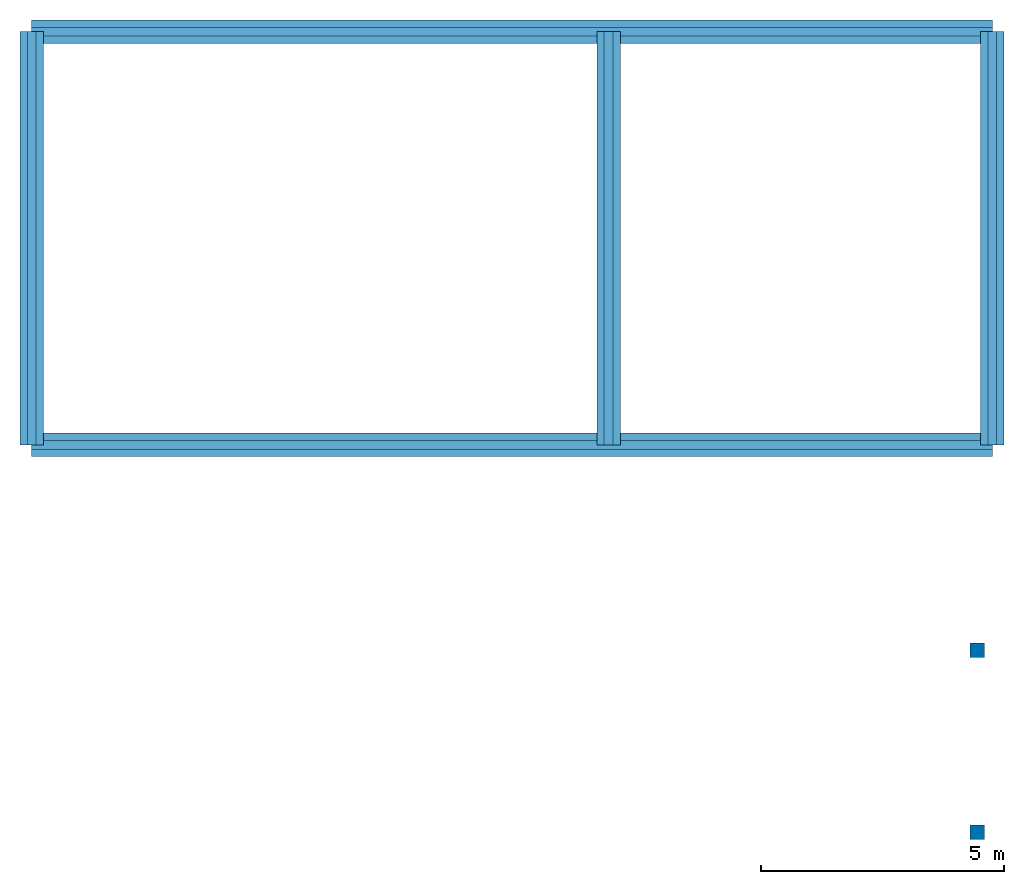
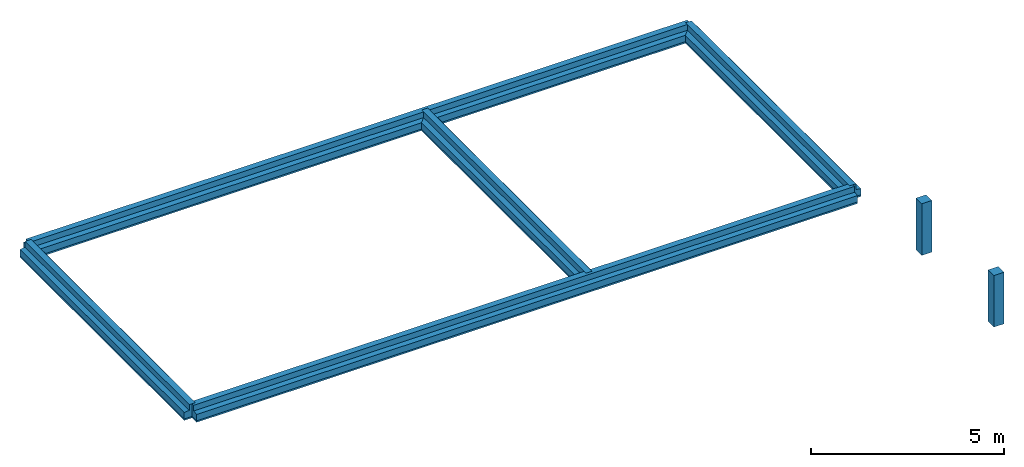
# One storey: 10 building element parts, 2 columns, 5 elements without a shape of their own.
"""IFC2X3 building model written with IfcOpenShell, lengths in metres."""

from ifc_helpers import new_model, entity, si_unit, converted_unit, derived_unit, money_unit, direction, frame, origin_with_axes, origin_2d_with_axis, place, context, subcontext, project, spatial, polyline, rectangle, outline, extrude, material, type_object, element, aggregate, save


model = new_model("IFC2X3")

# Units and contexts
model_context = context("Model", 3, precision=1e-05, world=origin_with_axes(), true_north=direction((0.0, 1.0)))
body_context = subcontext(model_context, "Body", "Model", "MODEL_VIEW")
ifc_project = project(units=[si_unit("LENGTHUNIT", "METRE"), si_unit("AREAUNIT", "SQUARE_METRE"), si_unit("VOLUMEUNIT", "CUBIC_METRE"), converted_unit("PLANEANGLEUNIT", "DEGREE", entity("IfcPlaneAngleMeasure", 0.0174532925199), si_unit("PLANEANGLEUNIT", "RADIAN"), dimensions=[0, 0, 0, 0, 0, 0, 0]), si_unit("SOLIDANGLEUNIT", "STERADIAN"), money_unit("CHF"), converted_unit("TIMEUNIT", "Year", entity("IfcTimeMeasure", 31556926.0), si_unit("TIMEUNIT", "SECOND"), dimensions=[0, 0, 1, 0, 0, 0, 0]), si_unit("MASSUNIT", "GRAM", prefix="KILO"), si_unit("THERMODYNAMICTEMPERATUREUNIT", "DEGREE_CELSIUS"), si_unit("LUMINOUSINTENSITYUNIT", "LUMEN"), si_unit("ENERGYUNIT", "JOULE", prefix="MEGA"), derived_unit("THERMALCONDUCTANCEUNIT", [(si_unit("POWERUNIT", "WATT"), 1), (si_unit("LENGTHUNIT", "METRE"), -1), (si_unit("THERMODYNAMICTEMPERATUREUNIT", "KELVIN"), -1)]), derived_unit("SPECIFICHEATCAPACITYUNIT", [(si_unit("ENERGYUNIT", "JOULE"), 1), (si_unit("MASSUNIT", "GRAM", prefix="KILO"), -1), (si_unit("THERMODYNAMICTEMPERATUREUNIT", "KELVIN"), -1)]), derived_unit("MASSDENSITYUNIT", [(si_unit("MASSUNIT", "GRAM", prefix="KILO"), 1), (si_unit("VOLUMEUNIT", "CUBIC_METRE"), -1)])], contexts=[model_context])

# Site, building, storey
site_placement = place(None, origin_with_axes())
site = spatial("IfcSite", under=ifc_project, at=site_placement, Name="Site", CompositionType="ELEMENT")
building_placement = place(site_placement, origin_with_axes())
building = spatial("IfcBuilding", under=site, at=building_placement, Name="Bâtiment", CompositionType="ELEMENT")
storey_placement = place(building_placement, frame((0.0, 0.0, -2.8), z_axis=(0.0, 0.0, 1.0), x_axis=(1.0, 0.0, 0.0)))
storey = spatial("IfcBuildingStorey", under=building, at=storey_placement, Name="Sous-sol", CompositionType="ELEMENT", Elevation=-2.8)

# Columns
ifc_material_1 = material(Name="Béton armé (Coulé)")
column_type = type_object("IfcColumnType", Name="Béton armé (Coulé) 300 x 300", PredefinedType="COLUMN")
for number, where, z_axis, x_axis, name in (
    (1, (31.0853686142, 3.60535037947, 2.78), (0.0, 0.0, 1.0), (1.0, 0.0, 0.0), "POTEAU-001"),
    (2, (31.0853686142, -0.131985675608, 2.78), (0.0, 0.0, 1.0), (1.0, 0.0, 0.0), "POTEAU-001"),
):
    element("IfcColumn", number, at=place(storey_placement, frame(where, z_axis=z_axis, x_axis=x_axis)), inside=storey, type_object=column_type, material=ifc_material_1, Name=name, ObjectType="COLUMN", context=body_context, shape_type="SweptSolid", body=[
        extrude(rectangle(XDim=0.3, YDim=0.3, at=origin_2d_with_axis()), origin_with_axes(), (0.0, 0.0, 1.0), 1.62845695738),
    ])

# Wall, building element parts
wall_type = type_object("IfcWallType", Name="Fondation - Semelle filante 480 x 450", PredefinedType="ELEMENTEDWALL")
wall_1_placement = place(storey_placement, frame((11.6516351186, 16.3234412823, 1.8), z_axis=(0.0, 0.0, 1.0), x_axis=(1.0, 0.0, 0.0)))
wall_1 = element("IfcWall", 3, at=wall_1_placement, inside=storey, type_object=wall_type, Name="MUR_EXT-009", ObjectType="ELEMENTEDWALL")
ifc_material_2 = material(Name="Béton maigre")
building_element_part_1_placement = place(wall_1_placement, origin_with_axes())
building_element_part_1 = element("IfcBuildingElementPart", 4, at=building_element_part_1_placement, material=ifc_material_2, Name="Béton maigre", context=body_context, shape_type="SweptSolid", body=[
    extrude(outline(polyline([(-0.235000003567, 0.0), (-0.235000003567, -0.05), (0.244999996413, -0.05), (0.244999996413, 0.0), (-0.235000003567, 0.0)])), frame((0.0, 0.0, 0.0), z_axis=(-1.0, 0.0, 0.0), x_axis=(0.0, -1.0, 0.0)), (0.0, 0.0, -1.0), 19.7510132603),
])
ifc_material_3 = material(Name="Béton")
building_element_part_2_placement = place(wall_1_placement, origin_with_axes())
building_element_part_2 = element("IfcBuildingElementPart", 5, at=building_element_part_2_placement, material=ifc_material_3, Name="Béton", context=body_context, shape_type="SweptSolid", body=[
    extrude(outline(polyline([(-0.235000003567, 0.199999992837), (-0.235000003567, 0.0), (0.244999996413, 0.0), (0.244999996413, 0.199999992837), (0.0949999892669, 0.220000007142), (0.0949999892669, 0.400000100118), (-0.0850000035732, 0.400000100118), (-0.0850000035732, 0.220000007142), (-0.235000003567, 0.199999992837)])), frame((0.0, 0.0, 0.0), z_axis=(-1.0, 0.0, 0.0), x_axis=(0.0, -1.0, 0.0)), (0.0, 0.0, -1.0), 19.7510132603),
])
aggregate(wall_1, [building_element_part_1, building_element_part_2])

wall_2_placement = place(storey_placement, frame((31.4026483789, 16.3234412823, 1.8), z_axis=(0.0, 0.0, 1.0), x_axis=(0.0, -1.0, 0.0)))
wall_2 = element("IfcWall", 6, at=wall_2_placement, inside=storey, type_object=wall_type, Name="MUR_EXT-010", ObjectType="ELEMENTEDWALL")
building_element_part_3_placement = place(wall_2_placement, origin_with_axes())
building_element_part_3 = element("IfcBuildingElementPart", 7, at=building_element_part_3_placement, material=ifc_material_2, Name="Béton maigre", context=body_context, shape_type="SweptSolid", body=[
    extrude(outline(polyline([(-0.235000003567, 0.0), (-0.235000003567, -0.05), (0.244999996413, -0.05), (0.244999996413, 0.0), (-0.235000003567, 0.0)])), frame((0.0, 0.0, 0.0), z_axis=(-1.0, 0.0, 0.0), x_axis=(0.0, -1.0, 0.0)), (0.0, 0.0, -1.0), 8.50101326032),
])
building_element_part_4_placement = place(wall_2_placement, origin_with_axes())
building_element_part_4 = element("IfcBuildingElementPart", 8, at=building_element_part_4_placement, material=ifc_material_3, Name="Béton", context=body_context, shape_type="SweptSolid", body=[
    extrude(outline(polyline([(-0.235000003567, 0.199999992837), (-0.235000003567, 0.0), (0.244999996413, 0.0), (0.244999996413, 0.199999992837), (0.0949999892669, 0.220000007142), (0.0949999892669, 0.400000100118), (-0.0850000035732, 0.400000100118), (-0.0850000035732, 0.220000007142), (-0.235000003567, 0.199999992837)])), frame((0.0, 0.0, 0.0), z_axis=(-1.0, 0.0, 0.0), x_axis=(0.0, -1.0, 0.0)), (0.0, 0.0, -1.0), 8.50101326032),
])
aggregate(wall_2, [building_element_part_3, building_element_part_4])

wall_3_placement = place(storey_placement, frame((31.4026483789, 7.82242802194, 1.8), z_axis=(0.0, 0.0, 1.0), x_axis=(-1.0, 0.0, 0.0)))
wall_3 = element("IfcWall", 9, at=wall_3_placement, inside=storey, type_object=wall_type, Name="MUR_EXT-011", ObjectType="ELEMENTEDWALL")
building_element_part_5_placement = place(wall_3_placement, origin_with_axes())
building_element_part_5 = element("IfcBuildingElementPart", 10, at=building_element_part_5_placement, material=ifc_material_2, Name="Béton maigre", context=body_context, shape_type="SweptSolid", body=[
    extrude(outline(polyline([(-0.235000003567, 0.0), (-0.235000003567, -0.05), (0.244999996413, -0.05), (0.244999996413, 0.0), (-0.235000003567, 0.0)])), frame((0.0, 0.0, 0.0), z_axis=(-1.0, 0.0, 0.0), x_axis=(0.0, -1.0, 0.0)), (0.0, 0.0, -1.0), 19.7510132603),
])
building_element_part_6_placement = place(wall_3_placement, origin_with_axes())
building_element_part_6 = element("IfcBuildingElementPart", 11, at=building_element_part_6_placement, material=ifc_material_3, Name="Béton", context=body_context, shape_type="SweptSolid", body=[
    extrude(outline(polyline([(-0.235000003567, 0.199999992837), (-0.235000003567, 0.0), (0.244999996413, 0.0), (0.244999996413, 0.199999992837), (0.0949999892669, 0.220000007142), (0.0949999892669, 0.400000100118), (-0.0850000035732, 0.400000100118), (-0.0850000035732, 0.220000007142), (-0.235000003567, 0.199999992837)])), frame((0.0, 0.0, 0.0), z_axis=(-1.0, 0.0, 0.0), x_axis=(0.0, -1.0, 0.0)), (0.0, 0.0, -1.0), 19.7510132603),
])
aggregate(wall_3, [building_element_part_5, building_element_part_6])

wall_4_placement = place(storey_placement, frame((11.6516351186, 7.82242802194, 1.8), z_axis=(0.0, 0.0, 1.0), x_axis=(0.0, 1.0, 0.0)))
wall_4 = element("IfcWall", 12, at=wall_4_placement, inside=storey, type_object=wall_type, Name="MUR_EXT-012", ObjectType="ELEMENTEDWALL")
building_element_part_7_placement = place(wall_4_placement, origin_with_axes())
building_element_part_7 = element("IfcBuildingElementPart", 13, at=building_element_part_7_placement, material=ifc_material_2, Name="Béton maigre", context=body_context, shape_type="SweptSolid", body=[
    extrude(outline(polyline([(-0.235000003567, 0.0), (-0.235000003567, -0.05), (0.244999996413, -0.05), (0.244999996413, 0.0), (-0.235000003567, 0.0)])), frame((0.0, 0.0, 0.0), z_axis=(-1.0, 0.0, 0.0), x_axis=(0.0, -1.0, 0.0)), (0.0, 0.0, -1.0), 8.50101326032),
])
building_element_part_8_placement = place(wall_4_placement, origin_with_axes())
building_element_part_8 = element("IfcBuildingElementPart", 14, at=building_element_part_8_placement, material=ifc_material_3, Name="Béton", context=body_context, shape_type="SweptSolid", body=[
    extrude(outline(polyline([(-0.235000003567, 0.199999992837), (-0.235000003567, 0.0), (0.244999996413, 0.0), (0.244999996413, 0.199999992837), (0.0949999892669, 0.220000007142), (0.0949999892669, 0.400000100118), (-0.0850000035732, 0.400000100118), (-0.0850000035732, 0.220000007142), (-0.235000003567, 0.199999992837)])), frame((0.0, 0.0, 0.0), z_axis=(-1.0, 0.0, 0.0), x_axis=(0.0, -1.0, 0.0)), (0.0, 0.0, -1.0), 8.50101326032),
])
aggregate(wall_4, [building_element_part_7, building_element_part_8])

wall_5_placement = place(storey_placement, frame((23.507141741, 7.82242802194, 1.8), z_axis=(0.0, 0.0, 1.0), x_axis=(0.0, 1.0, 0.0)))
wall_5 = element("IfcWall", 15, at=wall_5_placement, inside=storey, type_object=wall_type, Name="MUR_EXT-012", ObjectType="ELEMENTEDWALL")
building_element_part_9_placement = place(wall_5_placement, origin_with_axes())
building_element_part_9 = element("IfcBuildingElementPart", 16, at=building_element_part_9_placement, material=ifc_material_2, Name="Béton maigre", context=body_context, shape_type="SweptSolid", body=[
    extrude(outline(polyline([(-0.235000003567, 0.0), (-0.235000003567, -0.05), (0.244999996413, -0.05), (0.244999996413, 0.0), (-0.235000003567, 0.0)])), frame((0.0, 0.0, 0.0), z_axis=(-1.0, 0.0, 0.0), x_axis=(0.0, -1.0, 0.0)), (0.0, 0.0, -1.0), 8.50101326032),
])
building_element_part_10_placement = place(wall_5_placement, origin_with_axes())
building_element_part_10 = element("IfcBuildingElementPart", 17, at=building_element_part_10_placement, material=ifc_material_3, Name="Béton", context=body_context, shape_type="SweptSolid", body=[
    extrude(outline(polyline([(-0.235000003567, 0.199999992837), (-0.235000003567, 0.0), (0.244999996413, 0.0), (0.244999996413, 0.199999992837), (0.0949999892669, 0.220000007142), (0.0949999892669, 0.400000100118), (-0.0850000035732, 0.400000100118), (-0.0850000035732, 0.220000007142), (-0.235000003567, 0.199999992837)])), frame((0.0, 0.0, 0.0), z_axis=(-1.0, 0.0, 0.0), x_axis=(0.0, -1.0, 0.0)), (0.0, 0.0, -1.0), 8.50101326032),
])
aggregate(wall_5, [building_element_part_9, building_element_part_10])

save(model, "model.ifc")
